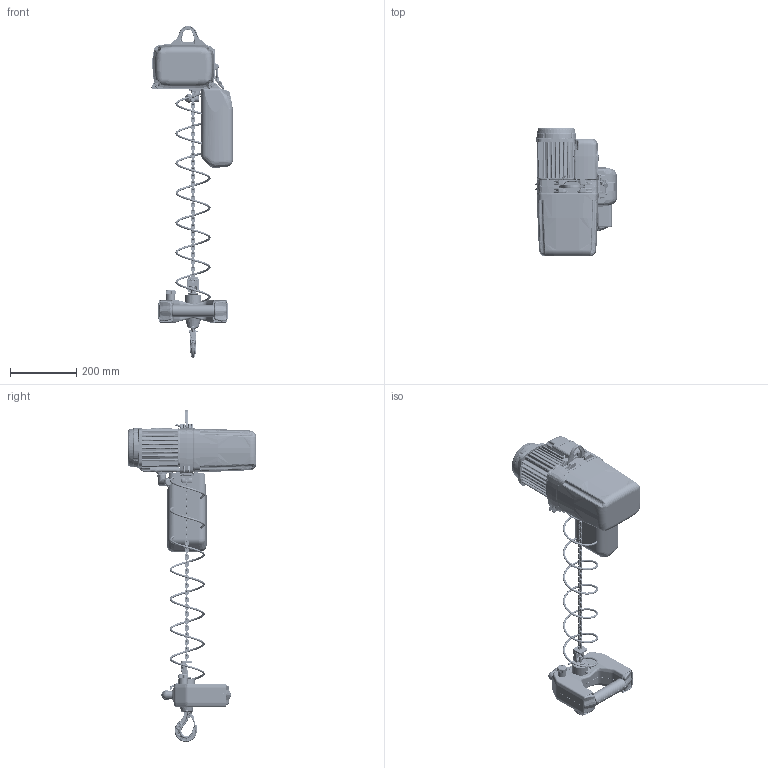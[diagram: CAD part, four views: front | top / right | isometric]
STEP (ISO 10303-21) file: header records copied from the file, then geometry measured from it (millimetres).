
FILE_DESCRIPTION((''),'2;1');
FILE_NAME('G:\Technik\3D-Dateien light\GPM250 Handy Kit 9500.9264.L.stp','2014-07-01T11:55:35',('gispen'),(''),'Autodesk Inventor 2012','Autodesk Inventor 2012','');
FILE_SCHEMA(('AUTOMOTIVE_DESIGN { 1 0 10303 214 1 1 1 1 }'));
Length unit declared in the file: millimetre
Products named in the file (1): 9500.9264
Bounding box: 245.89 x 389 x 1004.8 mm (x, y, z)
Volume: 84244.6 mm3; surface area: 953195.1 mm2
Topology: 1 solids, 2 shells, 7646 faces, 19200 edges, 11420 vertices
Faces by surface type: bspline 2457, plane 2030, cylinder 1850, torus 658, cone 432, sphere 219
Full cylindrical faces by diameter (mm): 3.5 x4, 4 x7, 4.2 x2, 5 x9, 7 x3, 8.5 x2, 9.8 x2, 10 x8, 13 x1, 16 x1, 20 x1, 22 x2, 22.5 x1, 23 x1, 24 x1, 24.9 x1, 25 x4, 25.5 x2, 26 x1, 28 x1, 28.03 x2, 29 x4, 30 x4, 30.5 x1, 50 x1
Entity records: 352809 total; most frequent: CARTESIAN_POINT 177094, ORIENTED_EDGE 37564, DIRECTION 32151, EDGE_CURVE 18790, AXIS2_PLACEMENT_3D 12743, VERTEX_POINT 11355, EDGE_LOOP 7949, FACE_OUTER_BOUND 7645
